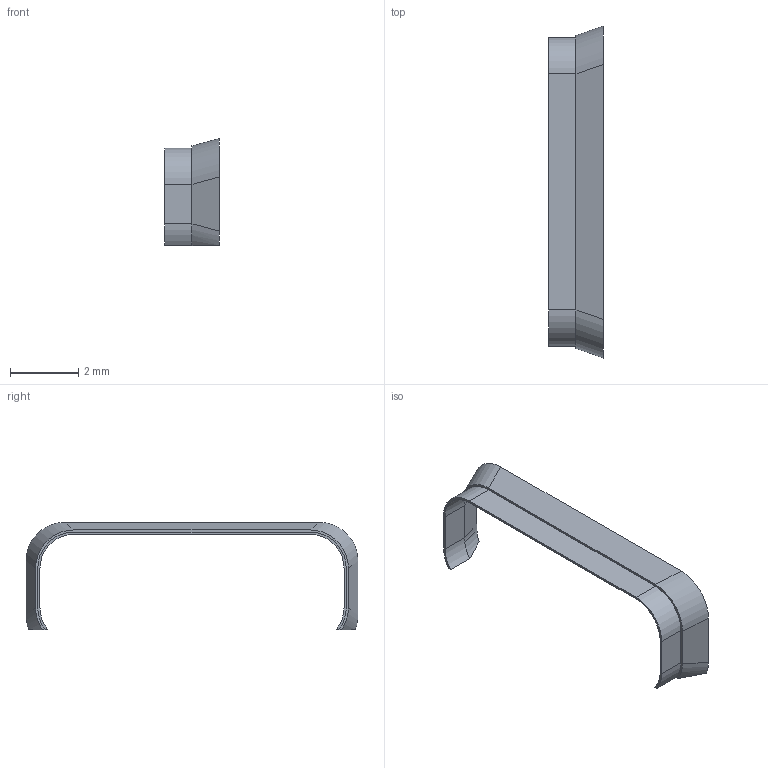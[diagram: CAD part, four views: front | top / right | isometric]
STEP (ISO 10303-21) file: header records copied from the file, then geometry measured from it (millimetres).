
FILE_DESCRIPTION(('Open CASCADE Model'),'2;1');
FILE_NAME('USB_liner_inner_returns','2026-09-21T22:33:44',('Author'),( 'Open CASCADE'),'Open CASCADE STEP processor 7.9','build123d', 'Unknown');
FILE_SCHEMA(('AUTOMOTIVE_DESIGN { 1 0 10303 214 1 1 1 1 }'));
Length unit declared in the file: millimetre
Products named in the file (2): USB_liner_inner_returns
Assembly tree (1 placements, depth 2):
  USB_liner_inner_returns
    USB_liner_inner_returns
Bounding box: 1.6 x 9.76 x 3.15 mm (x, y, z)
Volume: 2.2 mm3; surface area: 50.6 mm2
Topology: 1 solids, 1 shells, 217 faces, 615 edges, 408 vertices
Faces by surface type: plane 117, bspline 92, cylinder 8
Entity records: 7772 total; most frequent: CARTESIAN_POINT 2771, ORIENTED_EDGE 1230, DIRECTION 678, EDGE_CURVE 615, VERTEX_POINT 408, LINE 360, VECTOR 360, FACE_BOUND 225
